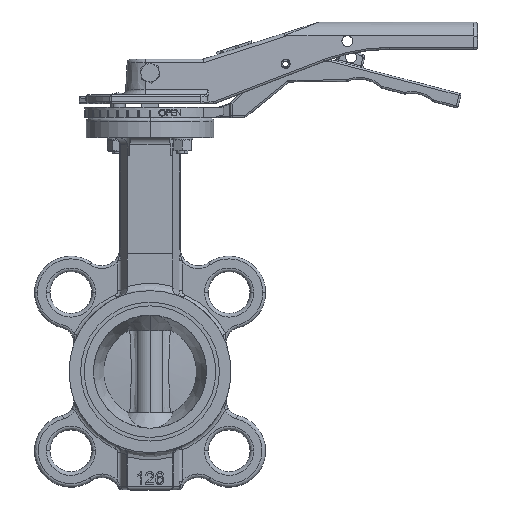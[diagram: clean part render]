
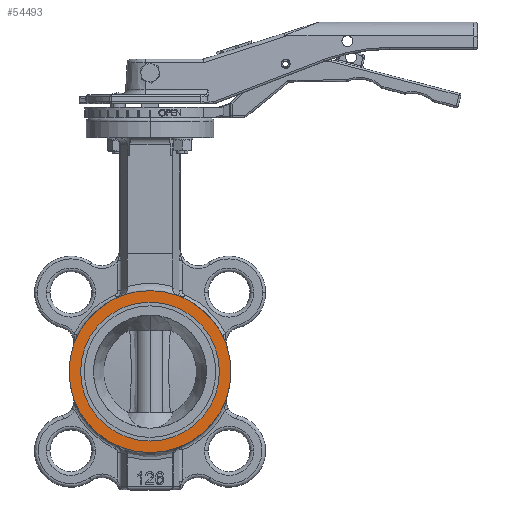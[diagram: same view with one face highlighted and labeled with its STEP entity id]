
A CAD part, top view. The second image highlights one B-rep face of the part: STEP entity #54493.
In plain terms, the highlighted planar face has unit normal (0, 0, 1).
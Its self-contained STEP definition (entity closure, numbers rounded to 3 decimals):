
#369 = PLANE ( 'NONE',  #15310 ) ;
#1188 = EDGE_CURVE ( 'NONE', #51971, #25727, #57488, .T. ) ;
#2420 = DIRECTION ( 'NONE',  ( -1., 0., 0. ) ) ;
#2951 = CARTESIAN_POINT ( 'NONE',  ( -15.139, 41.846, 21. ) ) ;
#3456 = CARTESIAN_POINT ( 'NONE',  ( -5.255, 45.421, 21. ) ) ;
#4165 = AXIS2_PLACEMENT_3D ( 'NONE', #6865, #7083, #2420 ) ;
#4923 = CARTESIAN_POINT ( 'NONE',  ( -38.15, 0., 21. ) ) ;
#6865 = CARTESIAN_POINT ( 'NONE',  ( 0., 0., 21. ) ) ;
#7083 = DIRECTION ( 'NONE',  ( 0., 0., 1. ) ) ;
#7740 = CARTESIAN_POINT ( 'NONE',  ( 38.15, 0., 21. ) ) ;
#9357 = AXIS2_PLACEMENT_3D ( 'NONE', #12803, #17918, #33117 ) ;
#10352 = CIRCLE ( 'NONE', #53048, 38.15 ) ;
#11302 = FACE_OUTER_BOUND ( 'NONE', #48792, .T. ) ;
#12803 = CARTESIAN_POINT ( 'NONE',  ( 0., 0., 21. ) ) ;
#13690 = EDGE_CURVE ( 'NONE', #51551, #19391, #10352, .T. ) ;
#14462 = VERTEX_POINT ( 'NONE', #2951 ) ;
#14808 = ORIENTED_EDGE ( 'NONE', *, *, #1188, .T. ) ;
#15226 = DIRECTION ( 'NONE',  ( 0., 0., 1. ) ) ;
#15310 = AXIS2_PLACEMENT_3D ( 'NONE', #55303, #15226, #65067 ) ;
#15386 = CIRCLE ( 'NONE', #27577, 44.5 ) ;
#16583 = DIRECTION ( 'NONE',  ( 0., 0., 1. ) ) ;
#17251 = CARTESIAN_POINT ( 'NONE',  ( 44.5, 0., 21. ) ) ;
#17918 = DIRECTION ( 'NONE',  ( 0., 0., 1. ) ) ;
#18948 = CARTESIAN_POINT ( 'NONE',  ( 15.139, 41.846, 21. ) ) ;
#19047 = EDGE_CURVE ( 'NONE', #14462, #60931, #15386, .T. ) ;
#19391 = VERTEX_POINT ( 'NONE', #4923 ) ;
#20514 = ORIENTED_EDGE ( 'NONE', *, *, #33037, .F. ) ;
#21209 = DIRECTION ( 'NONE',  ( -1., 0., 0. ) ) ;
#22491 = EDGE_CURVE ( 'NONE', #60931, #51971, #43545, .T. ) ;
#23569 = CARTESIAN_POINT ( 'NONE',  ( -15.139, 41.846, 21. ) ) ;
#25727 = VERTEX_POINT ( 'NONE', #27960 ) ;
#25732 = ORIENTED_EDGE ( 'NONE', *, *, #19047, .T. ) ;
#25989 = DIRECTION ( 'NONE',  ( 0., 0., 1. ) ) ;
#26471 = CARTESIAN_POINT ( 'NONE',  ( 0., 0., 21. ) ) ;
#27577 = AXIS2_PLACEMENT_3D ( 'NONE', #36369, #25989, #35716 ) ;
#27960 = CARTESIAN_POINT ( 'NONE',  ( 15.139, 41.846, 21. ) ) ;
#33037 = EDGE_CURVE ( 'NONE', #19391, #51551, #51305, .T. ) ;
#33117 = DIRECTION ( 'NONE',  ( -1., 0., 0. ) ) ;
#33731 = EDGE_CURVE ( 'NONE', #25727, #14462, #45820, .T. ) ;
#33938 = CARTESIAN_POINT ( 'NONE',  ( 5.255, 45.421, 21. ) ) ;
#35716 = DIRECTION ( 'NONE',  ( -1., 0., 0. ) ) ;
#36369 = CARTESIAN_POINT ( 'NONE',  ( 0., 0., 21. ) ) ;
#38163 = FACE_BOUND ( 'NONE', #61832, .T. ) ;
#43545 = CIRCLE ( 'NONE', #9357, 44.5 ) ;
#45812 = CARTESIAN_POINT ( 'NONE',  ( -44.5, 0., 21. ) ) ;
#45820 =( BOUNDED_CURVE ( )  B_SPLINE_CURVE ( 3, ( #18948, #33938, #3456, #23569 ),
 .UNSPECIFIED., .F., .F. ) 
 B_SPLINE_CURVE_WITH_KNOTS ( ( 4, 4 ),
 ( 0., 0.031 ),
 .UNSPECIFIED. ) 
 CURVE ( )  GEOMETRIC_REPRESENTATION_ITEM ( )  RATIONAL_B_SPLINE_CURVE ( ( 0.956, 0.918, 0.918, 0.956 ) ) 
 REPRESENTATION_ITEM ( '' )  );
#46722 = DIRECTION ( 'NONE',  ( 0., 0., 1. ) ) ;
#46744 = CARTESIAN_POINT ( 'NONE',  ( 0., 0., 21. ) ) ;
#48792 = EDGE_LOOP ( 'NONE', ( #60722, #25732, #54123, #14808 ) ) ;
#49868 = AXIS2_PLACEMENT_3D ( 'NONE', #26471, #46722, #57070 ) ;
#51305 = CIRCLE ( 'NONE', #4165, 38.15 ) ;
#51551 = VERTEX_POINT ( 'NONE', #7740 ) ;
#51971 = VERTEX_POINT ( 'NONE', #17251 ) ;
#53048 = AXIS2_PLACEMENT_3D ( 'NONE', #46744, #16583, #21209 ) ;
#54123 = ORIENTED_EDGE ( 'NONE', *, *, #22491, .T. ) ;
#54493 = ADVANCED_FACE ( 'NONE', ( #38163, #11302 ), #369, .T. ) ;
#55303 = CARTESIAN_POINT ( 'NONE',  ( -45.034, -45.034, 21. ) ) ;
#57070 = DIRECTION ( 'NONE',  ( -1., 0., 0. ) ) ;
#57488 = CIRCLE ( 'NONE', #49868, 44.5 ) ;
#60722 = ORIENTED_EDGE ( 'NONE', *, *, #33731, .T. ) ;
#60931 = VERTEX_POINT ( 'NONE', #45812 ) ;
#61832 = EDGE_LOOP ( 'NONE', ( #20514, #62772 ) ) ;
#62772 = ORIENTED_EDGE ( 'NONE', *, *, #13690, .F. ) ;
#65067 = DIRECTION ( 'NONE',  ( 1., 0., 0. ) ) ;
